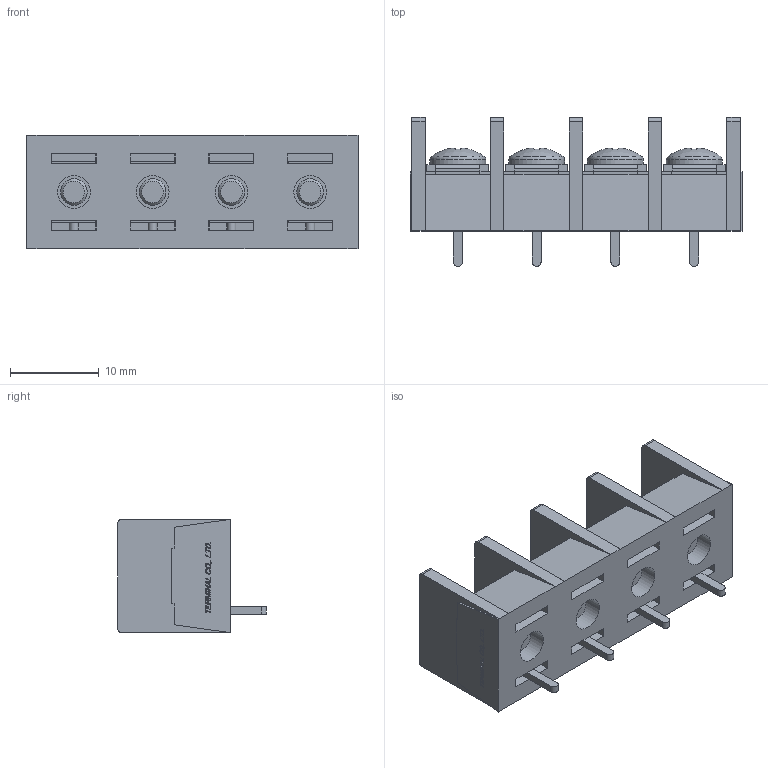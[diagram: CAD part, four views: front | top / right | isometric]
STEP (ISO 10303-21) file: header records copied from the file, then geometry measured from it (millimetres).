
FILE_DESCRIPTION(/* description */ ('Alibre Inc.'),/* implementation_level */ '2;1');
FILE_NAME(/* name */ 'export0',/* time_stamp */ '2015-10-20T08:11:56+09:00',/* author */ (''),/* organization */ (''),/* preprocessor_version */ 'ST-DEVELOPER v14',/* originating_system */ 'Alibre',/* authorisation */ '');
FILE_SCHEMA (('CONFIG_CONTROL_DESIGN'));
Length unit declared in the file: centimetre
Products named in the file (1): ID_1
Bounding box: 37.47 x 16.8 x 12.8 mm (x, y, z)
Volume: 3534.8 mm3; surface area: 4452.5 mm2
Topology: 1 solids, 69 shells, 1514 faces, 3908 edges, 2588 vertices
Faces by surface type: plane 1128, bspline 312, cylinder 42, cone 20, torus 8, sphere 4
Full cylindrical faces by diameter (mm): 3 x8, 3.7 x4, 4.6 x4, 6.3 x4
Entity records: 43957 total; most frequent: CARTESIAN_POINT 10741, ORIENTED_EDGE 7728, DIRECTION 4516, EDGE_CURVE 3864, VECTOR 2990, LINE 2990, VERTEX_POINT 2576, EDGE_LOOP 1658
